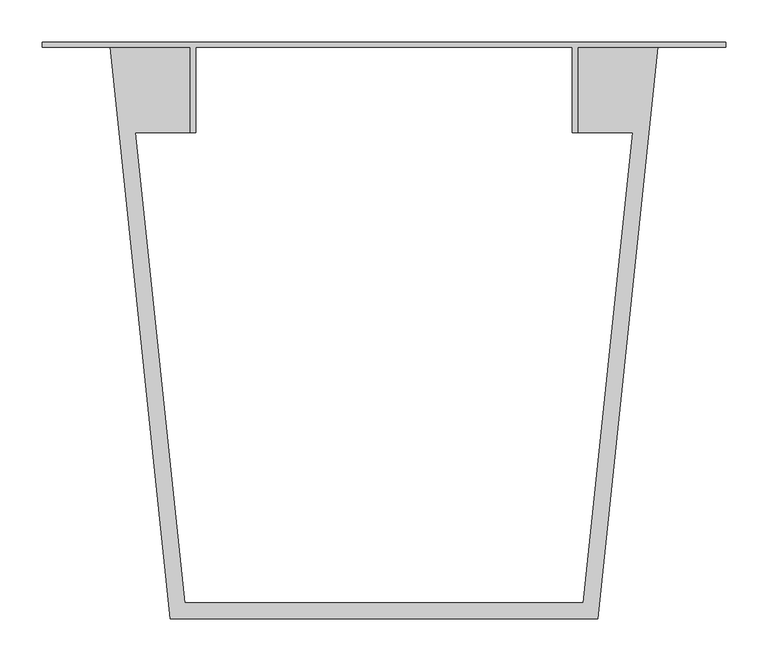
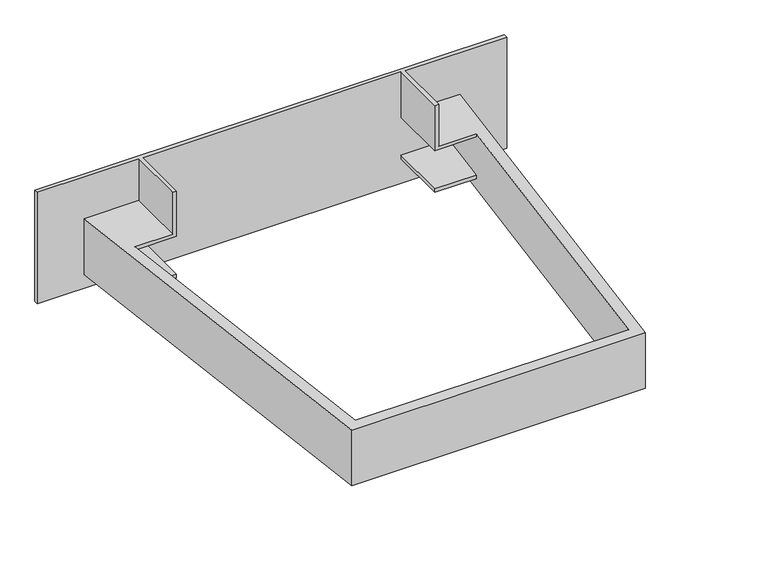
"""IFC4 building model written with IfcOpenShell, lengths in millimetres: proxy geometry, IMPRESS^TABLE 1_ANGLE LOOP BASE-KEEL PLATES."""

from ifc_helpers import new_model, si_unit, origin, place, context, project, spatial, faceted_brep, source, transform, mapped, element, save


def generic_models_531129e8(model_context):
    return source(origin(), model_context, "Body", "Brep", [
        faceted_brep([(-152.4, 685.8, -25.4), (-152.4, 685.8, 177.8), (660.4, 685.8, 177.8), (660.4, 685.8, -25.4), (-152.4, 679.45, -25.4), (-152.4, 679.45, 177.8), (477.7081399, 577.85, 19.05), (549.5795496, 577.85, 19.05), (549.5795496, 577.85, 25.4), (477.7081399, 577.85, 25.4), (477.7081399, 679.45, 19.05), (477.7081399, 679.45, 25.4), (560.2581399, 679.45, 19.05), (560.2581399, 679.45, 25.4), (-41.5795496, 577.85, 19.05), (30.2918601, 577.85, 19.05), (30.2918601, 577.85, 25.4), (-41.5795496, 577.85, 25.4), (30.2918601, 679.45, 19.05), (30.2918601, 679.45, 25.4), (-52.2581399, 679.45, 19.05), (-52.2581399, 679.45, 25.4), (560.2581399, 679.45, 0.0), (490.847303, 19.05, 0.0), (490.847303, 19.05, 101.6), (549.5795496, 577.85, 101.6), (549.5795496, 577.85, 95.25), (560.2581399, 679.45, 95.25), (-52.2581399, 679.45, 95.25), (-41.5795496, 577.85, 95.25), (-41.5795496, 577.85, 101.6), (17.152697, 19.05, 101.6), (17.152697, 19.05, 0.0), (-52.2581399, 679.45, 0.0), (30.2918601, 577.85, 95.25), (30.2918601, 577.85, 177.8), (23.9418601, 577.85, 177.8), (23.9418601, 577.85, 101.6), (30.2918601, 679.45, 95.25), (30.2918601, 679.45, 177.8), (477.7081399, 577.85, 95.25), (477.7081399, 679.45, 95.25), (484.0581399, 577.85, 101.6), (484.0581399, 679.45, 101.6), (484.0581399, 679.45, 177.8), (484.0581399, 577.85, 177.8), (477.7081399, 577.85, 177.8), (660.4, 679.45, 177.8), (23.9418601, 679.45, 177.8), (477.7081399, 679.45, 177.8), (-71.4130727, 679.45, 0.0), (-71.4130727, 679.45, 101.6), (23.9418601, 679.45, 101.6), (660.4, 679.45, -25.4), (579.4130727, 679.45, 101.6), (579.4130727, 679.45, 0.0), (508.0, 0.0, 0.0), (508.0, 0.0, 101.6), (0.0, 0.0, 0.0), (0.0, 0.0, 101.6)], [[[0, 1, 2, 3]], [[1, 0, 4, 5]], [[6, 7, 8, 9]], [[10, 6, 9, 11]], [[6, 10, 12, 7]], [[11, 9, 8, 13]], [[14, 15, 16, 17]], [[15, 18, 19, 16]], [[18, 15, 14, 20]], [[16, 19, 21, 17]], [[13, 8, 7, 12, 22, 23, 24, 25, 26, 27]], [[20, 14, 17, 21, 28, 29, 30, 31, 32, 33]], [[29, 34, 35, 36, 37, 30]], [[34, 38, 39, 35]], [[29, 28, 38, 34]], [[27, 26, 40, 41]], [[42, 43, 44, 45]], [[46, 45, 44, 47, 2, 1, 5, 48, 36, 35, 39, 49]], [[11, 13, 27, 41, 49, 39, 38, 28, 21, 19, 18, 20, 33, 50, 51, 52, 48, 5, 4, 53, 47, 44, 43, 54, 55, 22, 12, 10]], [[52, 37, 36, 48]], [[41, 40, 46, 49]], [[40, 26, 25, 42, 45, 46]], [[53, 4, 0, 3]], [[47, 53, 3, 2]], [[56, 55, 54, 57]], [[58, 56, 57, 59]], [[50, 58, 59, 51]], [[23, 32, 31, 24]], [[54, 43, 42, 25, 24, 31, 30, 37, 52, 51, 59, 57]], [[22, 55, 56, 58, 50, 33, 32, 23]]]),
    ])


if __name__ == "__main__":
    model = new_model("IFC4")
    model_context = context("Model", 3, world=origin())
    ifc_project = project(units=[si_unit("LENGTHUNIT", "METRE", prefix="MILLI")], contexts=[model_context])
    site = spatial("IfcSite", under=ifc_project)
    building = spatial("IfcBuilding", under=site)
    placement = place(None, origin())
    generic_models_shape = generic_models_531129e8(model_context)
    element("IfcBuildingElementProxy", 1, Name="IMPRESS^TABLE 1_ANGLE LOOP BASE-KEEL PLATES", ObjectType="IMPRESS^TABLE 1_ANGLE LOOP BASE-KEEL PLATES", at=placement, inside=building, context=model_context, shape_type="MappedRepresentation", body=[
        mapped(generic_models_shape, transform((0.0, 0.0, 0.0), x_axis=(1.0, 0.0, 0.0), y_axis=(0.0, 1.0, 0.0), z_axis=(0.0, 0.0, 1.0))),
    ])
    save(model, "model.ifc")
